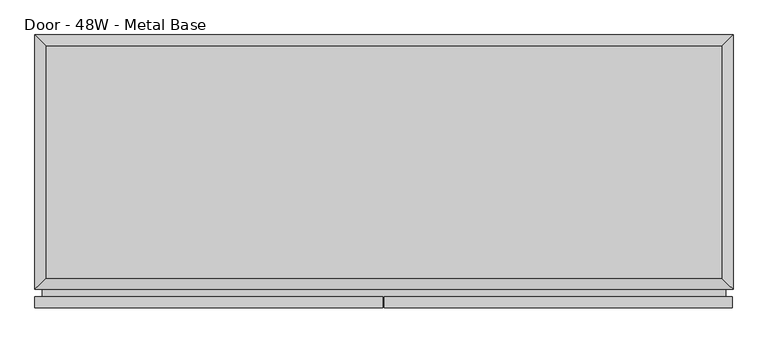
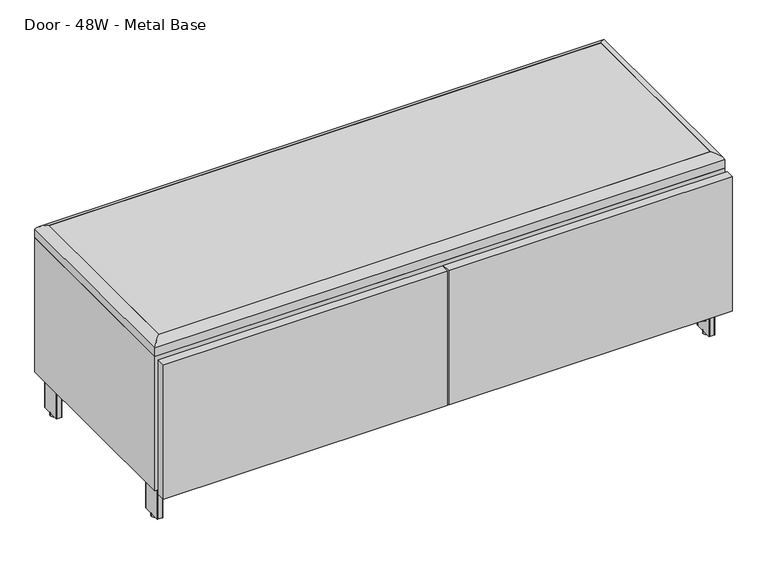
"""IFC4 building model written with IfcOpenShell, lengths in millimetres: furniture geometry, Steelcase Coalesse - Exponents - Seating - Bench : Door - 48W - Metal Base."""

from ifc_helpers import new_model, si_unit, point, frame, frame_2d, origin, origin_with_axes, place, context, project, spatial, polyline, circle_curve, ellipse_curve, trimmed, segment, composite_curve, outline, extrude, faceted_brep, source, transform, mapped, element, save
from ifc_brep_helpers import plane_surface, cylinder_surface, advanced_brep


def door_48w_metal_base_669a1daa(model_context):
    return source(origin(), model_context, "Body", "SolidModel", [
        extrude(outline(polyline([(1217.8284, 0.0), (1217.8284, -19.05), (610.4382, -19.05), (610.4382, 0.0), (1217.8284, 0.0)])), frame((0.0, 0.0, 82.55), z_axis=(0.0, 0.0, 1.0), x_axis=(1.0, 0.0, 0.0)), (0.0, 0.0, 1.0), 304.8),
        extrude(outline(polyline([(607.3902, 0.0), (607.3902, -19.05), (0.0, -19.05), (0.0, 0.0), (607.3902, 0.0)])), frame((0.0, 0.0, 82.55), z_axis=(0.0, 0.0, 1.0), x_axis=(1.0, 0.0, 0.0)), (0.0, 0.0, 1.0), 304.8),
        faceted_brep([(1193.419, 428.1633485, 82.55), (614.172, 251.7961151, 82.55), (614.172, 218.1038849, 82.55), (1193.419, 37.8529725, 82.55), (1193.419, 57.8040065, 82.55), (624.1498412, 234.95, 82.55), (1193.419, 408.2123144, 82.55), (1193.419, 428.1633485, 34.925), (1193.419, 408.2123144, 34.925), (624.2031998, 234.9333958, 34.925), (1193.419, 57.8040065, 34.925), (1193.419, 37.8529725, 34.925), (614.172, 218.1038849, 34.925), (614.172, 251.7961151, 34.925)], [[[0, 1, 2, 3, 4, 5, 6]], [[7, 8, 9, 10, 11, 12, 13]], [[1, 0, 7, 13]], [[2, 1, 13, 12]], [[3, 2, 12, 11]], [[4, 3, 11, 10]], [[5, 4, 10, 9]], [[6, 5, 9, 8]], [[0, 6, 8, 7]]]),
        advanced_brep(
        [(0.0, 12.7, 406.6283237), (0.0, 12.7, 387.35), (1219.2, 12.7, 387.35), (1219.2, 12.7, 406.6283237), (1219.2, 457.2, 406.6283237), (1219.2, 457.2, 387.35), (0.0, 457.2, 387.35), (0.0, 457.2, 406.6283237), (1200.15, 31.75, 406.6283237), (1200.15, 438.15, 406.6283237), (19.05, 438.15, 406.6283237), (19.05, 31.75, 406.6283237), (1200.15, 438.15, 419.0696271), (1200.15, 31.75, 419.0696271), (19.05, 31.75, 419.0696271), (19.05, 438.15, 419.0696271)],
        [
            (0, 1),
            (1, 2),
            (2, 3),
            (3, 0),
            (4, 5),
            (5, 6),
            (6, 7),
            (7, 4),
            (8, 9),
            (9, 10),
            (10, 11),
            (11, 8),
            (0, 7),
            (6, 1),
            (5, 2),
            (4, 3),
            (12, 9),
            (8, 13),
            (13, 12),
            (13, 3, ellipse_curve(frame((1198.5973666, 33.3026334, 395.8870134), z_axis=(0.7071067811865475, 0.7071067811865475, 0.0), x_axis=(-0.7071067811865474, 0.7071067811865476, 0.0)), 32.8586138, 23.2345486)),
            (4, 12, ellipse_curve(frame((1198.5973666, 436.5973666, 395.8870134), z_axis=(0.7071067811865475, -0.7071067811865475, 0.0), x_axis=(0.7071067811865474, 0.7071067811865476, 0.0)), 32.8586138, 23.2345486)),
            (11, 14),
            (14, 13),
            (14, 0, ellipse_curve(frame((20.6026334, 33.3026334, 395.8870134), z_axis=(0.7071067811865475, -0.7071067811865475, 0.0), x_axis=(0.7071067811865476, 0.7071067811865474, 0.0)), 32.8586138, 23.2345486)),
            (10, 15),
            (15, 14),
            (15, 7, ellipse_curve(frame((20.6026334, 436.5973666, 395.8870134), z_axis=(-0.7071067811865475, -0.7071067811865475, 0.0), x_axis=(0.7071067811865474, -0.7071067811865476, 0.0)), 32.8586138, 23.2345486)),
            (12, 15),
        ],
        [
            plane_surface(frame((0.0, 12.7, 406.6283237), z_axis=(0.0, -1.0, 0.0), x_axis=(-1.0, 0.0, 0.0))),
            plane_surface(frame((0.0, 457.2, 406.6283237), z_axis=(0.0, 1.0, 0.0), x_axis=(1.0, 0.0, 0.0))),
            plane_surface(frame((1219.2, 12.7, 406.6283237), z_axis=(0.0, 0.0, 1.0), x_axis=(0.0, 1.0, 0.0))),
            plane_surface(frame((0.0, 12.7, 406.6283237), z_axis=(-1.0, 0.0, 1.9588398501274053e-12), x_axis=(0.0, 1.0, 0.0))),
            plane_surface(frame((0.0, 12.7, 387.35), z_axis=(0.0, 0.0, -1.0), x_axis=(0.0, 1.0, 0.0))),
            plane_surface(frame((1219.2, 12.7, 387.35), z_axis=(1.0, 0.0, 0.0), x_axis=(0.0, 1.0, 0.0))),
            plane_surface(frame((1200.15, 438.15, 406.6284102), z_axis=(-1.0, 0.0, 0.0), x_axis=(0.0, -1.0, 0.0))),
            cylinder_surface(frame((1198.5973666, 457.2, 395.8870134), z_axis=(0.0, 1.0, 0.0), x_axis=(1.0, 0.0, 0.0)), 23.2345486),
            plane_surface(frame((1200.15, 31.75, 406.6284102), z_axis=(0.0, 1.0, 0.0), x_axis=(-1.0, 0.0, 0.0))),
            cylinder_surface(frame((1219.2, 33.3026334, 395.8870134), z_axis=(1.0, 0.0, 0.0), x_axis=(0.0, -1.0, 0.0)), 23.2345486),
            plane_surface(frame((19.05, 31.75, 406.6284102), z_axis=(1.0, 0.0, 0.0), x_axis=(0.0, 1.0, 0.0))),
            cylinder_surface(frame((20.6026334, 12.7, 395.8870134), z_axis=(0.0, -1.0, 0.0), x_axis=(-1.0, 0.0, 0.0)), 23.2345486),
            plane_surface(frame((19.05, 438.15, 406.6284102), z_axis=(0.0, -1.0, 0.0), x_axis=(1.0, 0.0, 0.0))),
            cylinder_surface(frame((0.0, 436.5973666, 395.8870134), z_axis=(-1.0, 0.0, 0.0), x_axis=(0.0, 1.0, 0.0)), 23.2345486),
        ],
        [
            (0, [[1, 2, 3, 4]]),
            (1, [[5, 6, 7, 8]]),
            (2, [[9, 10, 11, 12]]),
            (3, [[-1, 13, -7, 14]]),
            (4, [[-2, -14, -6, 15]]),
            (5, [[-3, -15, -5, 16]]),
            (6, [[17, -9, 18, 19]]),
            (7, [[-19, 20, -16, 21]]),
            (8, [[-18, -12, 22, 23]]),
            (9, [[-20, -23, 24, -4]]),
            (10, [[-22, -11, 25, 26]]),
            (11, [[-24, -26, 27, -13]]),
            (12, [[-17, 28, -25, -10]]),
            (13, [[-21, -8, -27, -28]]),
        ],
    ),
        extrude(outline(composite_curve([segment(trimmed(circle_curve(frame_2d((614.4757069, 234.844279)), 6.35), [point((608.1257069, 234.844279))], [point((620.8257069, 234.844279))], False, "CARTESIAN"), True, "CONTINUOUS"), segment(trimmed(circle_curve(frame_2d((614.4757069, 234.844279)), 6.35), [point((620.8257069, 234.844279))], [point((608.1257069, 234.844279))], False, "CARTESIAN"), True, "CONTINUOUS")], self_intersect=False)), origin_with_axes(), (0.0, 0.0, 1.0), 6.3754),
        extrude(outline(composite_curve([segment(trimmed(circle_curve(frame_2d((622.3, 252.476)), 1.524), [point((622.3, 254.0))], [point((623.824, 252.476))], False, "CARTESIAN"), True, "CONTINUOUS"), segment(polyline([(623.824, 252.476), (623.824, 217.424)]), True, "CONTINUOUS"), segment(trimmed(circle_curve(frame_2d((622.3, 217.424)), 1.524), [point((623.824, 217.424))], [point((622.3, 215.9))], False, "CARTESIAN"), True, "CONTINUOUS"), segment(polyline([(622.3, 215.9), (606.410829, 215.9)]), True, "CONTINUOUS"), segment(trimmed(circle_curve(frame_2d((606.410829, 217.536829)), 1.636829), [point((606.410829, 215.9))], [point((604.774, 217.536829))], False, "CARTESIAN"), True, "CONTINUOUS"), segment(polyline([(604.774, 217.536829), (604.774, 252.476)]), True, "CONTINUOUS"), segment(trimmed(circle_curve(frame_2d((606.298, 252.476)), 1.524), [point((604.774, 252.476))], [point((606.298, 254.0))], False, "CARTESIAN"), True, "CONTINUOUS"), segment(polyline([(606.298, 254.0), (622.3, 254.0)]), True, "CONTINUOUS")], self_intersect=False)), frame((0.0, 0.0, 6.3754), z_axis=(0.0, 0.0, 1.0), x_axis=(1.0, 0.0, 0.0)), (0.0, 0.0, 1.0), 73.152),
        faceted_brep([(1219.2, 12.7, 387.35), (0.0, 12.7, 387.35), (0.0, 12.7, 82.55), (1219.2, 12.7, 82.55), (19.05, 12.7, 368.0968), (604.774, 12.7, 368.0968), (604.774, 12.7, 101.8032), (19.05, 12.7, 101.8032), (623.824, 12.7, 368.0968), (1200.15, 12.7, 368.0968), (1200.15, 12.7, 101.8032), (623.824, 12.7, 101.8032), (1219.2, 457.2, 387.35), (1219.2, 457.2, 82.55), (0.0, 457.2, 82.55), (0.0, 457.2, 387.35), (604.774, 438.15, 368.0968), (19.05, 438.15, 368.0968), (19.05, 438.15, 101.8032), (604.774, 438.15, 101.8032), (1200.15, 438.15, 368.0968), (623.824, 438.15, 368.0968), (623.824, 438.15, 101.8032), (1200.15, 438.15, 101.8032)], [[[0, 1, 2, 3], [4, 5, 6, 7], [8, 9, 10, 11]], [[12, 13, 14, 15]], [[1, 0, 12, 15]], [[2, 1, 15, 14]], [[3, 2, 14, 13]], [[0, 3, 13, 12]], [[16, 17, 18, 19]], [[20, 21, 22, 23]], [[17, 16, 5, 4]], [[18, 17, 4, 7]], [[19, 18, 7, 6]], [[16, 19, 6, 5]], [[21, 20, 9, 8]], [[22, 21, 8, 11]], [[23, 22, 11, 10]], [[20, 23, 10, 9]]]),
        extrude(outline(polyline([(660.4, 285.75), (660.4, 184.15), (558.8, 184.15), (558.8, 285.75), (660.4, 285.75)])), frame((0.0, 0.0, 79.5274), z_axis=(0.0, 0.0, 1.0), x_axis=(1.0, 0.0, 0.0)), (0.0, 0.0, 1.0), 3.048),
        extrude(outline(composite_curve([segment(trimmed(circle_curve(frame_2d((19.163053, 47.5933344)), 6.35), [point((25.513053, 47.5933344))], [point((12.813053, 47.5933344))], False, "CARTESIAN"), True, "CONTINUOUS"), segment(trimmed(circle_curve(frame_2d((19.163053, 47.5933344)), 6.35), [point((12.813053, 47.5933344))], [point((25.513053, 47.5933344))], False, "CARTESIAN"), True, "CONTINUOUS")], self_intersect=False)), origin_with_axes(), (0.0, 0.0, 1.0), 6.3754),
        extrude(outline(composite_curve([segment(trimmed(circle_curve(frame_2d((14.224, 26.924)), 1.524), [point((14.224, 25.4))], [point((12.7, 26.924))], False, "CARTESIAN"), True, "CONTINUOUS"), segment(polyline([(12.7, 26.924), (12.7, 68.326)]), True, "CONTINUOUS"), segment(trimmed(circle_curve(frame_2d((14.224, 68.326)), 1.524), [point((12.7, 68.326))], [point((14.224, 69.85))], False, "CARTESIAN"), True, "CONTINUOUS"), segment(polyline([(14.224, 69.85), (23.661571, 69.85)]), True, "CONTINUOUS"), segment(trimmed(circle_curve(frame_2d((23.661571, 68.213171)), 1.636829), [point((23.661571, 69.85))], [point((25.2984, 68.213171))], False, "CARTESIAN"), True, "CONTINUOUS"), segment(polyline([(25.2984, 68.213171), (25.2984, 26.924)]), True, "CONTINUOUS"), segment(trimmed(circle_curve(frame_2d((23.7744, 26.924)), 1.524), [point((25.2984, 26.924))], [point((23.7744, 25.4))], False, "CARTESIAN"), True, "CONTINUOUS"), segment(polyline([(23.7744, 25.4), (14.224, 25.4)]), True, "CONTINUOUS")], self_intersect=False)), frame((0.0, 0.0, 6.3754), z_axis=(0.0, 0.0, 1.0), x_axis=(1.0, 0.0, 0.0)), (0.0, 0.0, 1.0), 73.152),
        extrude(outline(polyline([(6.35, 19.05), (6.35, 120.65), (107.95, 120.65), (107.95, 19.05), (6.35, 19.05)])), frame((0.0, 0.0, 79.5274), z_axis=(0.0, 0.0, 1.0), x_axis=(1.0, 0.0, 0.0)), (0.0, 0.0, 1.0), 3.048),
        extrude(outline(composite_curve([segment(trimmed(circle_curve(frame_2d((19.163053, 422.3066656)), 6.35), [point((25.513053, 422.3066656))], [point((12.813053, 422.3066656))], False, "CARTESIAN"), True, "CONTINUOUS"), segment(trimmed(circle_curve(frame_2d((19.163053, 422.3066656)), 6.35), [point((12.813053, 422.3066656))], [point((25.513053, 422.3066656))], False, "CARTESIAN"), True, "CONTINUOUS")], self_intersect=False)), origin_with_axes(), (0.0, 0.0, 1.0), 6.3754),
        extrude(outline(composite_curve([segment(polyline([(14.224, 444.5), (23.7744, 444.5)]), True, "CONTINUOUS"), segment(trimmed(circle_curve(frame_2d((23.7744, 442.976)), 1.524), [point((23.7744, 444.5))], [point((25.2984, 442.976))], False, "CARTESIAN"), True, "CONTINUOUS"), segment(polyline([(25.2984, 442.976), (25.2984, 401.686829)]), True, "CONTINUOUS"), segment(trimmed(circle_curve(frame_2d((23.661571, 401.686829)), 1.636829), [point((25.2984, 401.686829))], [point((23.661571, 400.05))], False, "CARTESIAN"), True, "CONTINUOUS"), segment(polyline([(23.661571, 400.05), (14.224, 400.05)]), True, "CONTINUOUS"), segment(trimmed(circle_curve(frame_2d((14.224, 401.574)), 1.524), [point((14.224, 400.05))], [point((12.7, 401.574))], False, "CARTESIAN"), True, "CONTINUOUS"), segment(polyline([(12.7, 401.574), (12.7, 442.976)]), True, "CONTINUOUS"), segment(trimmed(circle_curve(frame_2d((14.224, 442.976)), 1.524), [point((12.7, 442.976))], [point((14.224, 444.5))], False, "CARTESIAN"), True, "CONTINUOUS")], self_intersect=False)), frame((0.0, 0.0, 6.3754), z_axis=(0.0, 0.0, 1.0), x_axis=(1.0, 0.0, 0.0)), (0.0, 0.0, 1.0), 73.152),
        extrude(outline(polyline([(6.35, 450.85), (107.95, 450.85), (107.95, 349.25), (6.35, 349.25), (6.35, 450.85)])), frame((0.0, 0.0, 79.5274), z_axis=(0.0, 0.0, 1.0), x_axis=(1.0, 0.0, 0.0)), (0.0, 0.0, 1.0), 3.048),
        extrude(outline(composite_curve([segment(trimmed(circle_curve(frame_2d((1199.8706, 47.5933344)), 6.35), [point((1193.5206, 47.5933344))], [point((1206.2206, 47.5933344))], False, "CARTESIAN"), True, "CONTINUOUS"), segment(trimmed(circle_curve(frame_2d((1199.8706, 47.5933344)), 6.35), [point((1206.2206, 47.5933344))], [point((1193.5206, 47.5933344))], False, "CARTESIAN"), True, "CONTINUOUS")], self_intersect=False)), origin_with_axes(), (0.0, 0.0, 1.0), 6.3754),
        extrude(outline(composite_curve([segment(polyline([(1204.6966, 25.4), (1194.943, 25.4)]), True, "CONTINUOUS"), segment(trimmed(circle_curve(frame_2d((1194.943, 26.924)), 1.524), [point((1194.943, 25.4))], [point((1193.419, 26.924))], False, "CARTESIAN"), True, "CONTINUOUS"), segment(polyline([(1193.419, 26.924), (1193.419, 68.213171)]), True, "CONTINUOUS"), segment(trimmed(circle_curve(frame_2d((1195.055829, 68.213171)), 1.636829), [point((1193.419, 68.213171))], [point((1195.055829, 69.85))], False, "CARTESIAN"), True, "CONTINUOUS"), segment(polyline([(1195.055829, 69.85), (1204.6966, 69.85)]), True, "CONTINUOUS"), segment(trimmed(circle_curve(frame_2d((1204.6966, 68.326)), 1.524), [point((1204.6966, 69.85))], [point((1206.2206, 68.326))], False, "CARTESIAN"), True, "CONTINUOUS"), segment(polyline([(1206.2206, 68.326), (1206.2206, 26.924)]), True, "CONTINUOUS"), segment(trimmed(circle_curve(frame_2d((1204.6966, 26.924)), 1.524), [point((1206.2206, 26.924))], [point((1204.6966, 25.4))], False, "CARTESIAN"), True, "CONTINUOUS")], self_intersect=False)), frame((0.0, 0.0, 6.3754), z_axis=(0.0, 0.0, 1.0), x_axis=(1.0, 0.0, 0.0)), (0.0, 0.0, 1.0), 73.152),
        extrude(outline(polyline([(1212.81225, 19.05), (1111.25, 19.05), (1111.25, 120.65), (1212.81225, 120.65), (1212.81225, 19.05)])), frame((0.0, 0.0, 79.5274), z_axis=(0.0, 0.0, 1.0), x_axis=(1.0, 0.0, 0.0)), (0.0, 0.0, 1.0), 3.048),
        extrude(outline(polyline([(25.2984, 432.1805995), (604.774, 251.858551), (604.774, 218.041449), (25.2984, 37.7194005), (25.2984, 57.6704345), (594.9968002, 234.95), (25.2984, 412.2295655), (25.2984, 432.1805995)])), frame((0.0, 0.0, 34.925), z_axis=(0.0, 0.0, 1.0), x_axis=(1.0, 0.0, 0.0)), (0.0, 0.0, 1.0), 47.625),
        extrude(outline(composite_curve([segment(trimmed(circle_curve(frame_2d((1199.8706, 422.3066656)), 6.35), [point((1193.5206, 422.3066656))], [point((1206.2206, 422.3066656))], False, "CARTESIAN"), True, "CONTINUOUS"), segment(trimmed(circle_curve(frame_2d((1199.8706, 422.3066656)), 6.35), [point((1206.2206, 422.3066656))], [point((1193.5206, 422.3066656))], False, "CARTESIAN"), True, "CONTINUOUS")], self_intersect=False)), origin_with_axes(), (0.0, 0.0, 1.0), 6.3754),
        extrude(outline(composite_curve([segment(trimmed(circle_curve(frame_2d((1204.6966, 442.976)), 1.524), [point((1204.6966, 444.5))], [point((1206.2206, 442.976))], False, "CARTESIAN"), True, "CONTINUOUS"), segment(polyline([(1206.2206, 442.976), (1206.2206, 401.574)]), True, "CONTINUOUS"), segment(trimmed(circle_curve(frame_2d((1204.6966, 401.574)), 1.524), [point((1206.2206, 401.574))], [point((1204.6966, 400.05))], False, "CARTESIAN"), True, "CONTINUOUS"), segment(polyline([(1204.6966, 400.05), (1195.055829, 400.05)]), True, "CONTINUOUS"), segment(trimmed(circle_curve(frame_2d((1195.055829, 401.686829)), 1.636829), [point((1195.055829, 400.05))], [point((1193.419, 401.686829))], False, "CARTESIAN"), True, "CONTINUOUS"), segment(polyline([(1193.419, 401.686829), (1193.419, 442.976)]), True, "CONTINUOUS"), segment(trimmed(circle_curve(frame_2d((1194.943, 442.976)), 1.524), [point((1193.419, 442.976))], [point((1194.943, 444.5))], False, "CARTESIAN"), True, "CONTINUOUS"), segment(polyline([(1194.943, 444.5), (1204.6966, 444.5)]), True, "CONTINUOUS")], self_intersect=False)), frame((0.0, 0.0, 6.3754), z_axis=(0.0, 0.0, 1.0), x_axis=(1.0, 0.0, 0.0)), (0.0, 0.0, 1.0), 73.152),
        extrude(outline(polyline([(1212.81225, 450.85), (1212.81225, 349.25), (1111.25, 349.25), (1111.25, 450.85), (1212.81225, 450.85)])), frame((0.0, 0.0, 79.5274), z_axis=(0.0, 0.0, 1.0), x_axis=(1.0, 0.0, 0.0)), (0.0, 0.0, 1.0), 3.048),
        extrude(outline(polyline([(1200.15, 31.75), (19.05, 31.75), (19.05, 438.15), (1200.15, 438.15), (1200.15, 31.75)])), frame((0.0, 0.0, 406.6283237), z_axis=(0.0, 0.0, 1.0), x_axis=(1.0, 0.0, 0.0)), (0.0, 0.0, 1.0), 12.4413034),
        extrude(outline(polyline([(374.4468, 1206.2206), (374.4468, 12.7), (95.4532, 12.7), (95.4532, 1206.2206), (374.4468, 1206.2206)]), holes=[polyline([(368.0968, 623.824), (368.0968, 1200.15), (101.8032, 1200.15), (101.8032, 623.824), (368.0968, 623.824)]), polyline([(368.0968, 604.774), (101.8032, 604.774), (101.8032, 19.05), (368.0968, 19.05), (368.0968, 604.774)])]), frame((0.0, 0.0, 0.0), z_axis=(0.0, 1.0, 0.0), x_axis=(0.0, 0.0, 1.0)), (0.0, 0.0, 1.0), 12.7),
    ])


if __name__ == "__main__":
    model = new_model("IFC4")
    model_context = context("Model", 3, world=origin())
    ifc_project = project(units=[si_unit("LENGTHUNIT", "METRE", prefix="MILLI")], contexts=[model_context])
    site = spatial("IfcSite", under=ifc_project)
    building = spatial("IfcBuilding", under=site)
    placement = place(None, origin())
    door_48w_metal_base_shape = door_48w_metal_base_669a1daa(model_context)
    element("IfcFurniture", 1, ObjectType="Steelcase Coalesse - Exponents - Seating - Bench : Door - 48W - Metal Base", at=placement, inside=building, context=model_context, shape_type="MappedRepresentation", body=[
        mapped(door_48w_metal_base_shape, transform((0.0, 0.0, 0.0), x_axis=(1.0, 0.0, 0.0), y_axis=(0.0, 1.0, 0.0), z_axis=(0.0, 0.0, 1.0))),
    ])
    save(model, "model.ifc")
